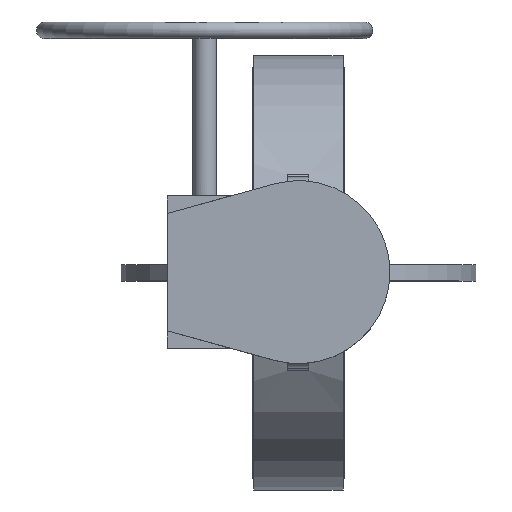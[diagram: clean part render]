
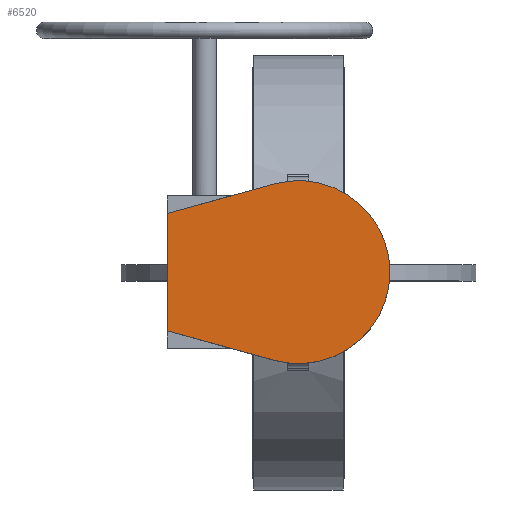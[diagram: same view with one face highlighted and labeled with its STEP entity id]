
A CAD part, top view. The second image highlights one B-rep face of the part: STEP entity #6520.
In plain terms, the highlighted planar face has unit normal (0, 0, 1).
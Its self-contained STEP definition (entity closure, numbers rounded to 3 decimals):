
#6520=ADVANCED_FACE('',(#12186),#12188,.T.);
#12186=FACE_BOUND('',#12187,.T.);
#12187=EDGE_LOOP('',(#16389,#16390,#16391,#16392));
#12188=PLANE('',#12189);
#12189=AXIS2_PLACEMENT_3D('',#12190,#12191,#12192);
#12190=CARTESIAN_POINT('',(0.,0.,389.));
#12191=DIRECTION('',(0.,0.,1.));
#12192=DIRECTION('',(0.,1.,0.));
#16389=ORIENTED_EDGE('',*,*,#18513,.T.);
#16390=ORIENTED_EDGE('',*,*,#18509,.T.);
#16391=ORIENTED_EDGE('',*,*,#18502,.T.);
#16392=ORIENTED_EDGE('',*,*,#18497,.T.);
#18497=EDGE_CURVE('',#21954,#21952,#21955,.T.);
#18502=EDGE_CURVE('',#21962,#21954,#21963,.T.);
#18509=EDGE_CURVE('',#21975,#21962,#21976,.T.);
#18513=EDGE_CURVE('',#21952,#21975,#21981,.T.);
#21952=VERTEX_POINT('',#31850);
#21954=VERTEX_POINT('',#31854);
#21955=LINE('',#31855,#31856);
#21962=VERTEX_POINT('',#31872);
#21963=LINE('',#31873,#31874);
#21975=VERTEX_POINT('',#31899);
#21976=LINE('',#31900,#31901);
#21981=CIRCLE('',#31913,78.);
#31850=CARTESIAN_POINT('',(-20.755,-75.188,389.));
#31854=CARTESIAN_POINT('',(-112.,-50.,389.));
#31855=CARTESIAN_POINT('',(-112.,-50.,389.));
#31856=VECTOR('',#31857,1.);
#31857=DIRECTION('',(0.964,-0.266,0.));
#31872=CARTESIAN_POINT('',(-112.,50.,389.));
#31873=CARTESIAN_POINT('',(-112.,50.,389.));
#31874=VECTOR('',#31875,1.);
#31875=DIRECTION('',(0.,-1.,0.));
#31899=CARTESIAN_POINT('',(-20.755,75.188,389.));
#31900=CARTESIAN_POINT('',(-20.755,75.188,389.));
#31901=VECTOR('',#31902,1.);
#31902=DIRECTION('',(-0.964,-0.266,0.));
#31913=AXIS2_PLACEMENT_3D('',#31914,#31915,#31916);
#31914=CARTESIAN_POINT('',(0.,0.,389.));
#31915=DIRECTION('',(0.,0.,1.));
#31916=DIRECTION('',(-0.266,-0.964,0.));
